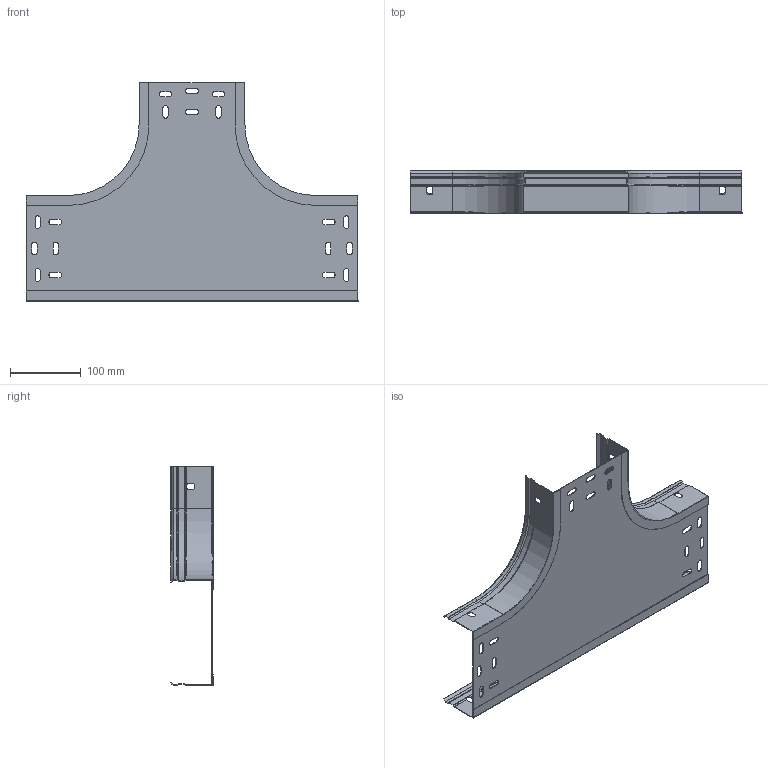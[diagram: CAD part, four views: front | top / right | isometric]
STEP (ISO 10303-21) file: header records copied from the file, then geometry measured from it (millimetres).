
FILE_DESCRIPTION (( 'STEP AP203' ), '1' );
FILE_NAME ('TERC 150x60.STEP', '2020-02-12T08:42:00', ( '' ), ( '' ), 'SwSTEP 2.0', 'SolidWorks 2019', '' );
FILE_SCHEMA (( 'CONFIG_CONTROL_DESIGN' ));
Length unit declared in the file: millimetre
Products named in the file (4): TERC 150x60; ERE_LATERAL RECTO TE_150 x 60; ERE_LATERAL INT CP_60; ERE_BASE TE_150
Assembly tree (4 placements, depth 2):
  TERC 150x60
    ERE_BASE TE_150
    ERE_LATERAL RECTO TE_150 x 60
    ERE_LATERAL INT CP_60  x2
Bounding box: 470 x 60.2 x 310 mm (x, y, z)
Volume: 166246.1 mm3; surface area: 351644.9 mm2
Topology: 4 solids, 4 shells, 276 faces, 704 edges, 432 vertices
Faces by surface type: plane 164, cylinder 92, cone 14, bspline 6
Entity records: 7280 total; most frequent: CARTESIAN_POINT 1299, DIRECTION 1162, ORIENTED_EDGE 1144, EDGE_CURVE 572, LINE 404, VECTOR 404, AXIS2_PLACEMENT_3D 379, VERTEX_POINT 352
